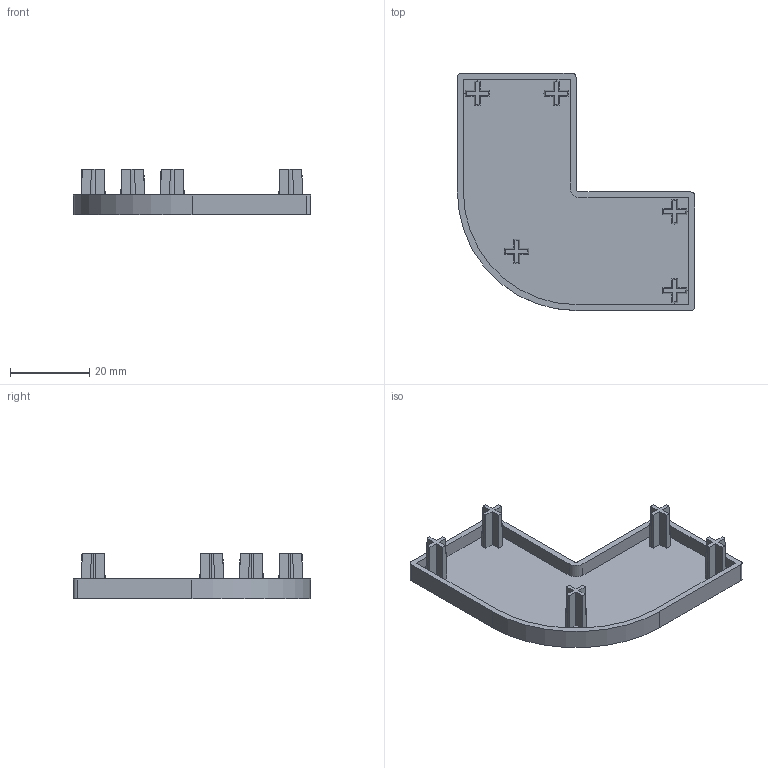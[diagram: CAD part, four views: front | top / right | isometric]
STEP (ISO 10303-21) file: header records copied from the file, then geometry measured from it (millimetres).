
FILE_DESCRIPTION (( 'STEP AP203' ), '1' );
FILE_NAME ('ECR6630-6.STEP', '2024-02-17T07:14:25', ( '' ), ( '' ), 'SwSTEP 2.0', 'SolidWorks 2022', '' );
FILE_SCHEMA (( 'CONFIG_CONTROL_DESIGN' ));
Length unit declared in the file: millimetre
Products named in the file (1): ECR6630-6
Bounding box: 60 x 60 x 11.5 mm (x, y, z)
Volume: 5568.4 mm3; surface area: 8018.9 mm2
Topology: 1 solids, 1 shells, 93 faces, 255 edges, 170 vertices
Faces by surface type: plane 60, cone 25, cylinder 8
Entity records: 3192 total; most frequent: CARTESIAN_POINT 759, ORIENTED_EDGE 510, DIRECTION 469, EDGE_CURVE 255, VERTEX_POINT 170, AXIS2_PLACEMENT_3D 160, LINE 149, VECTOR 149
